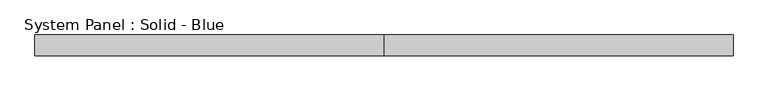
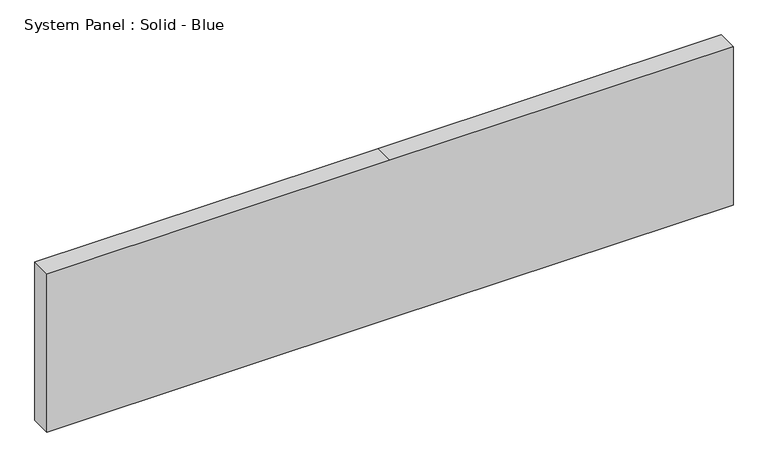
"""IFC4 building model written with IfcOpenShell, lengths in millimetres: plate geometry, System Panel : Solid - Blue."""

import ifcopenshell
import ifcopenshell.guid

model = None  # the IFC model being written
_history = None  # IfcOwnerHistory: only IFC2X3 demands one
_inside = {}  # id of a spatial element -> (the spatial element, [elements in it])
_under = {}  # id of a project, library or spatial element -> (it, [spatial elements below it])
_declared = {}  # id of a project -> (the project, [libraries it declares])
_typed = {}  # id of a type object -> (the type object, [elements of that type])
_made_of = {}  # id of a material, layer set ... -> (it, [elements and type objects made of it])


def new_model(schema):
    """Start an empty IFC model of exactly this schema.

    Asked for "IFC4X3", IfcOpenShell would pick the latest addendum, in which some entities
    have other attributes; the version numbers below select the first issue.
    IFC2X3 requires an IfcOwnerHistory on every rooted entity: one is made here for all.
    """
    global model, _history
    if schema == "IFC4X3":
        model = ifcopenshell.file(schema_version=(4, 3, 0, 0))
    else:
        model = ifcopenshell.file(schema=schema)
    _inside.clear()
    _under.clear()
    _declared.clear()
    _typed.clear()
    _made_of.clear()
    _history = None
    if model.schema == "IFC2X3":
        org = make("IfcOrganization", Name="unknown")
        user = make(
            "IfcPersonAndOrganization",
            ThePerson=make("IfcPerson", FamilyName="unknown"),
            TheOrganization=org,
        )
        app = make(
            "IfcApplication",
            ApplicationDeveloper=org,
            Version="unknown",
            ApplicationFullName="unknown",
            ApplicationIdentifier="unknown",
        )
        _history = make(
            "IfcOwnerHistory",
            OwningUser=user,
            OwningApplication=app,
            ChangeAction="ADDED",
            CreationDate=0,
        )
    return model


def make(cls, **values):
    """One entity of the class cls with the attributes given. An attribute that is None is left unset."""
    return model.create_entity(
        cls, **{name: value for name, value in values.items() if value is not None}
    )


def rooted(cls, **values):
    """An entity with a GlobalId (a new one), such as an element, a storey or a relation."""
    return make(cls, GlobalId=ifcopenshell.guid.new(), OwnerHistory=_history, **values)


def si_unit(unit_type, name, prefix=None):
    """IfcSIUnit, for example si_unit("LENGTHUNIT", "METRE", prefix="MILLI")."""
    return make("IfcSIUnit", UnitType=unit_type, Prefix=prefix, Name=name)


def assignment(units):
    """IfcUnitAssignment: the units of a project."""
    return None if units is None else make("IfcUnitAssignment", Units=units)


def point(xyz):
    """IfcCartesianPoint."""
    return None if xyz is None else make("IfcCartesianPoint", Coordinates=xyz)


def direction(xyz):
    """IfcDirection."""
    return None if xyz is None else make("IfcDirection", DirectionRatios=xyz)


def frame(location, z_axis=None, x_axis=None):
    """IfcAxis2Placement3D, a coordinate frame: its origin and axes. An axis left out is left unset."""
    return make(
        "IfcAxis2Placement3D",
        Location=point(location),
        Axis=direction(z_axis),
        RefDirection=direction(x_axis),
    )


def origin():
    """The frame at (0, 0, 0) with its axes left unset."""
    return frame((0.0, 0.0, 0.0))


def place(relative_to, where):
    """IfcLocalPlacement: puts the frame where relative to a parent placement (None: the world)."""
    return make(
        "IfcLocalPlacement", PlacementRelTo=relative_to, RelativePlacement=where
    )


def context(
    kind, dimensions, precision=None, world=None, true_north=None, identifier=None
):
    """IfcGeometricRepresentationContext, for example the 3D "Model" context."""
    return make(
        "IfcGeometricRepresentationContext",
        ContextIdentifier=identifier,
        ContextType=kind,
        CoordinateSpaceDimension=dimensions,
        Precision=precision,
        WorldCoordinateSystem=world,
        TrueNorth=true_north,
    )


def project(units=None, contexts=None):
    """IfcProject with its units and contexts."""
    return rooted(
        "IfcProject",
        Name="project",
        RepresentationContexts=contexts,
        UnitsInContext=assignment(units),
    )


def spatial(cls, under=None, at=None, **own):
    """A site, building, storey or space (cls), placed at a placement, below another one or the project."""
    s = rooted(cls, ObjectPlacement=at, **own)
    if under is not None:
        _under.setdefault(under.id(), (under, []))[1].append(s)
    return s


def polyline(points):
    """IfcPolyline through the points."""
    return make("IfcPolyline", Points=[point(p) for p in points])


def outline(outer, holes=None, kind="AREA"):
    """IfcArbitraryClosedProfileDef: a profile drawn as a closed curve; with holes, ...WithVoids."""
    if holes is None:
        return make("IfcArbitraryClosedProfileDef", ProfileType=kind, OuterCurve=outer)
    return make(
        "IfcArbitraryProfileDefWithVoids",
        ProfileType=kind,
        OuterCurve=outer,
        InnerCurves=holes,
    )


def extrude(swept, where, along, depth):
    """IfcExtrudedAreaSolid: the profile swept, set in the frame where, extruded along a direction by depth."""
    return make(
        "IfcExtrudedAreaSolid",
        SweptArea=swept,
        Position=where,
        ExtrudedDirection=direction(along),
        Depth=depth,
    )


def shape(context_of_items, identifier, shape_type, items):
    """IfcShapeRepresentation: the items that make up one representation, for example the "Body"."""
    return make(
        "IfcShapeRepresentation",
        ContextOfItems=context_of_items,
        RepresentationIdentifier=identifier,
        RepresentationType=shape_type,
        Items=items,
    )


def source(mapping_origin, context_of_items, identifier, shape_type, items):
    """IfcRepresentationMap: a shape defined once, which mapped items show again and again."""
    return make(
        "IfcRepresentationMap",
        MappingOrigin=mapping_origin,
        MappedRepresentation=shape(context_of_items, identifier, shape_type, items),
    )


def transform(
    local_origin,
    x_axis=None,
    y_axis=None,
    z_axis=None,
    scale=None,
    scale2=None,
    scale3=None,
    uniform=True,
):
    """IfcCartesianTransformationOperator3D, or its non-uniform kind. x_axis, y_axis, z_axis: its Axis1, 2, 3."""
    if uniform:
        return make(
            "IfcCartesianTransformationOperator3D",
            Axis1=direction(x_axis),
            Axis2=direction(y_axis),
            LocalOrigin=point(local_origin),
            Scale=scale,
            Axis3=direction(z_axis),
        )
    return make(
        "IfcCartesianTransformationOperator3DnonUniform",
        Axis1=direction(x_axis),
        Axis2=direction(y_axis),
        LocalOrigin=point(local_origin),
        Scale=scale,
        Axis3=direction(z_axis),
        Scale2=scale2,
        Scale3=scale3,
    )


def mapped(mapping_source, mapping_target):
    """IfcMappedItem: shows the shape of a source again, moved by a transform."""
    return make(
        "IfcMappedItem", MappingSource=mapping_source, MappingTarget=mapping_target
    )


def made_of(thing, what):
    """Note that an element or type object is made of a material, layer set ...; save() writes the relation."""
    if what is not None:
        _made_of.setdefault(what.id(), (what, []))[1].append(thing)
    return thing


def element(
    cls,
    number,
    at=None,
    inside=None,
    cuts=None,
    type_object=None,
    material=None,
    context=None,
    identifier="Body",
    shape_type=None,
    held_by="IfcProductDefinitionShape",
    body=None,
    shapes=None,
    **own,
):
    """One element of the class cls, such as IfcWall. Its Tag is "e" and its number.

    at: its placement. inside: the storey or other place that contains it. cuts: it is an
    opening in that element (IfcRelVoidsElement). A single representation is given by context,
    identifier, shape_type and body (its items); several are given by shapes. held_by: the class
    of the entity that holds the representations. save() writes the other relations.
    """
    e = rooted(cls, Tag="e%d" % number, ObjectPlacement=at, **own)
    if body is not None:
        shapes = [shape(context, identifier, shape_type, body)]
    if shapes is not None:
        e.Representation = make(held_by, Representations=shapes)
    if inside is not None:
        _inside.setdefault(inside.id(), (inside, []))[1].append(e)
    if cuts is not None:
        rooted(
            "IfcRelVoidsElement", RelatingBuildingElement=cuts, RelatedOpeningElement=e
        )
    if type_object is not None:
        _typed.setdefault(type_object.id(), (type_object, []))[1].append(e)
    return made_of(e, material)


def aggregate(whole, parts):
    """IfcRelAggregates: a whole, such as a stair, and the parts it consists of."""
    return rooted("IfcRelAggregates", RelatingObject=whole, RelatedObjects=parts)


def save(model, path):
    """Write the relations noted so far, then the file.

    IfcRelAggregates (storeys below a building ...), IfcRelContainedInSpatialStructure (elements
    in a storey), IfcRelDefinesByType, IfcRelAssociatesMaterial and IfcRelDeclares: one each for
    every whole, place, type object, material and project.
    """
    for whole, parts in _under.values():
        aggregate(whole, parts)
    for where, things in _inside.values():
        rooted(
            "IfcRelContainedInSpatialStructure",
            RelatedElements=things,
            RelatingStructure=where,
        )
    for kind, things in _typed.values():
        rooted("IfcRelDefinesByType", RelatedObjects=things, RelatingType=kind)
    for what, things in _made_of.values():
        rooted("IfcRelAssociatesMaterial", RelatedObjects=things, RelatingMaterial=what)
    for by, libraries in _declared.values():
        rooted("IfcRelDeclares", RelatingContext=by, RelatedDefinitions=libraries)
    model.write(path)


def system_panel_solid_blue_079ace0d(model_context):
    return source(origin(), model_context, "Body", "SweptSolid", [
        extrude(outline(polyline([(0.0, -1053.1928571), (0.0, 0.0), (0.0, 1053.1928571), (514.35, 1053.1928571), (514.35, 0.0), (514.35, -1053.1928571), (0.0, -1053.1928571)])), frame((0.0, -19.05, 0.0), z_axis=(0.0, 1.0, 0.0), x_axis=(0.0, 0.0, 1.0)), (0.0, 0.0, 1.0), 63.5),
    ])


if __name__ == "__main__":
    model = new_model("IFC4")
    model_context = context("Model", 3, world=origin())
    ifc_project = project(units=[si_unit("LENGTHUNIT", "METRE", prefix="MILLI")], contexts=[model_context])
    site = spatial("IfcSite", under=ifc_project)
    building = spatial("IfcBuilding", under=site)
    placement = place(None, origin())
    system_panel_solid_blue_shape = system_panel_solid_blue_079ace0d(model_context)
    element("IfcPlate", 1, ObjectType="System Panel : Solid - Blue", at=placement, inside=building, context=model_context, shape_type="MappedRepresentation", body=[
        mapped(system_panel_solid_blue_shape, transform((0.0, 0.0, 0.0), x_axis=(1.0, 0.0, 0.0), y_axis=(0.0, 1.0, 0.0), z_axis=(0.0, 0.0, 1.0))),
    ])
    save(model, "model.ifc")
